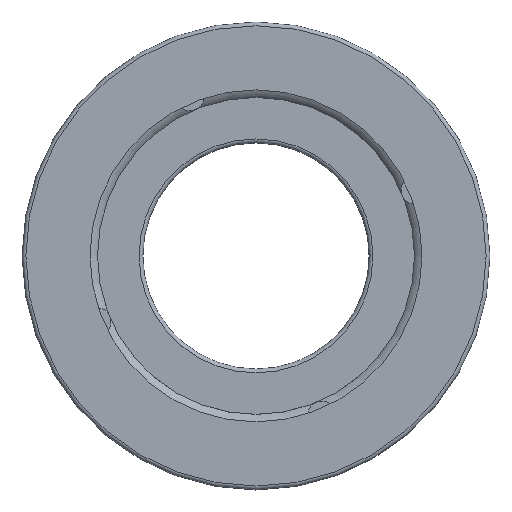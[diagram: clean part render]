
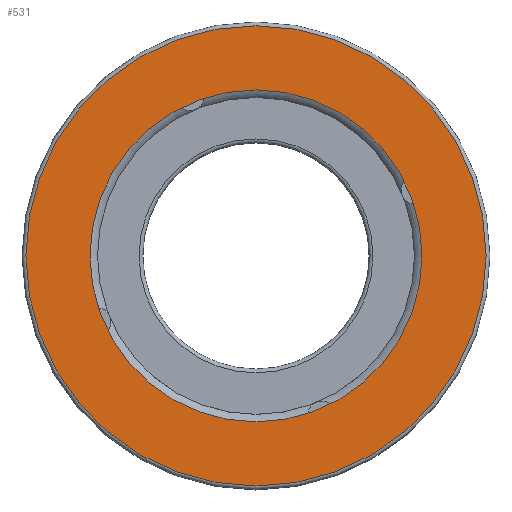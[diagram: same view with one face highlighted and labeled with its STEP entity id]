
A CAD part, top view. The second image highlights one B-rep face of the part: STEP entity #531.
In plain terms, the highlighted planar face has unit normal (0, 0, 1).
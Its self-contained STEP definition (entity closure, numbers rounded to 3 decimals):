
#487=PLANE('',#1299);
#531=ADVANCED_FACE('',(#619,#620),#487,.T.);
#619=FACE_BOUND('',#679,.T.);
#620=FACE_BOUND('',#680,.T.);
#679=EDGE_LOOP('',(#779));
#680=EDGE_LOOP('',(#780));
#779=ORIENTED_EDGE('',*,*,#1113,.T.);
#780=ORIENTED_EDGE('',*,*,#1114,.F.);
#1023=VERTEX_POINT('',#1749);
#1024=VERTEX_POINT('',#1751);
#1113=EDGE_CURVE('',#1023,#1023,#1235,.T.);
#1114=EDGE_CURVE('',#1024,#1024,#1236,.T.);
#1235=CIRCLE('',#1297,30.5);
#1236=CIRCLE('',#1298,22.);
#1297=AXIS2_PLACEMENT_3D('',#1748,#1434,#1435);
#1298=AXIS2_PLACEMENT_3D('',#1750,#1436,#1437);
#1299=AXIS2_PLACEMENT_3D('',#1752,#1438,#1439);
#1434=DIRECTION('',(0.,0.,1.));
#1435=DIRECTION('',(1.,0.,0.));
#1436=DIRECTION('',(0.,0.,1.));
#1437=DIRECTION('',(1.,0.,0.));
#1438=DIRECTION('',(0.,0.,1.));
#1439=DIRECTION('',(1.,0.,0.));
#1748=CARTESIAN_POINT('',(0.,0.,16.));
#1749=CARTESIAN_POINT('',(30.5,0.,16.));
#1750=CARTESIAN_POINT('',(0.,0.,16.));
#1751=CARTESIAN_POINT('',(22.,0.,16.));
#1752=CARTESIAN_POINT('',(0.,0.,16.));
